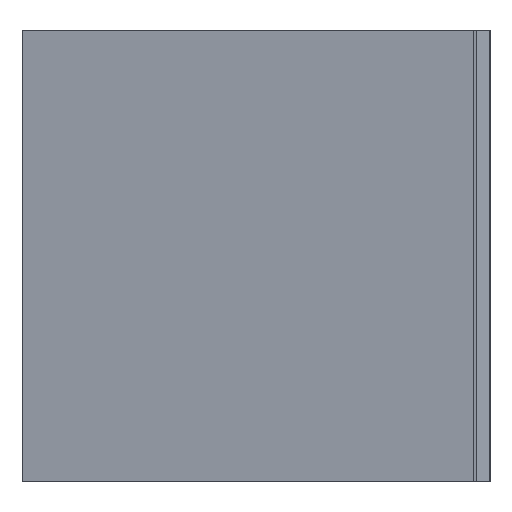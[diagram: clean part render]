
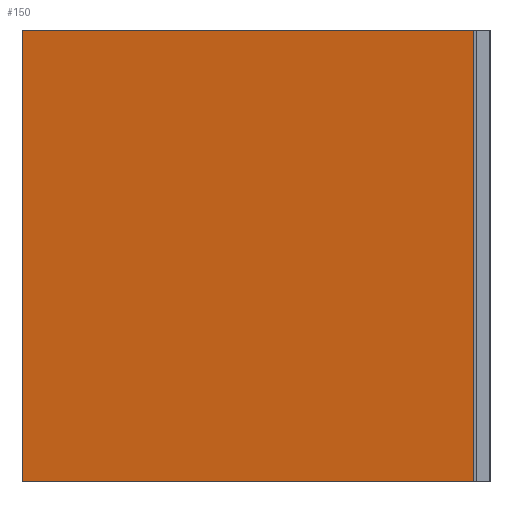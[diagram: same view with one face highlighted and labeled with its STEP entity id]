
A CAD part, left-side view. The second image highlights one B-rep face of the part: STEP entity #150.
In plain terms, the highlighted planar face has unit normal (0.983, -0.182, 0).
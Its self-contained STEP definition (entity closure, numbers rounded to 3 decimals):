
#98=CARTESIAN_POINT('Vertex',(20.,0.,0.)) ;
#101=CARTESIAN_POINT('Line Origine',(20.,0.,67.5)) ;
#105=CARTESIAN_POINT('Vertex',(20.,0.,135.)) ;
#120=CARTESIAN_POINT('Axis2P3D Location',(20.,0.,0.)) ;
#125=CARTESIAN_POINT('Line Origine',(32.5,67.5,0.)) ;
#129=CARTESIAN_POINT('Vertex',(45.,135.,0.)) ;
#132=CARTESIAN_POINT('Line Origine',(45.,135.,67.5)) ;
#136=CARTESIAN_POINT('Vertex',(45.,135.,135.)) ;
#139=CARTESIAN_POINT('Line Origine',(32.5,67.5,135.)) ;
#102=DIRECTION('Vector Direction',(0.,0.,1.)) ;
#121=DIRECTION('Axis2P3D Direction',(0.983,-0.182,0.)) ;
#122=DIRECTION('Axis2P3D XDirection',(0.182,0.983,0.)) ;
#126=DIRECTION('Vector Direction',(0.182,0.983,0.)) ;
#133=DIRECTION('Vector Direction',(0.,0.,1.)) ;
#140=DIRECTION('Vector Direction',(0.182,0.983,0.)) ;
#123=AXIS2_PLACEMENT_3D('Plane Axis2P3D',#120,#121,#122) ;
#145=ORIENTED_EDGE('',*,*,#107,.F.) ;
#146=ORIENTED_EDGE('',*,*,#131,.T.) ;
#147=ORIENTED_EDGE('',*,*,#138,.T.) ;
#148=ORIENTED_EDGE('',*,*,#143,.F.) ;
#103=VECTOR('Line Direction',#102,1.) ;
#127=VECTOR('Line Direction',#126,1.) ;
#134=VECTOR('Line Direction',#133,1.) ;
#141=VECTOR('Line Direction',#140,1.) ;
#150=ADVANCED_FACE('Extrude.1',(#149),#124,.T.) ;
#107=EDGE_CURVE('',#99,#106,#104,.T.) ;
#131=EDGE_CURVE('',#99,#130,#128,.T.) ;
#138=EDGE_CURVE('',#130,#137,#135,.T.) ;
#143=EDGE_CURVE('',#106,#137,#142,.T.) ;
#144=EDGE_LOOP('',(#145,#146,#147,#148)) ;
#149=FACE_OUTER_BOUND('',#144,.T.) ;
#104=LINE('Line',#101,#103) ;
#128=LINE('Line',#125,#127) ;
#135=LINE('Line',#132,#134) ;
#142=LINE('Line',#139,#141) ;
#124=PLANE('',#123) ;
#99=VERTEX_POINT('',#98) ;
#106=VERTEX_POINT('',#105) ;
#130=VERTEX_POINT('',#129) ;
#137=VERTEX_POINT('',#136) ;
